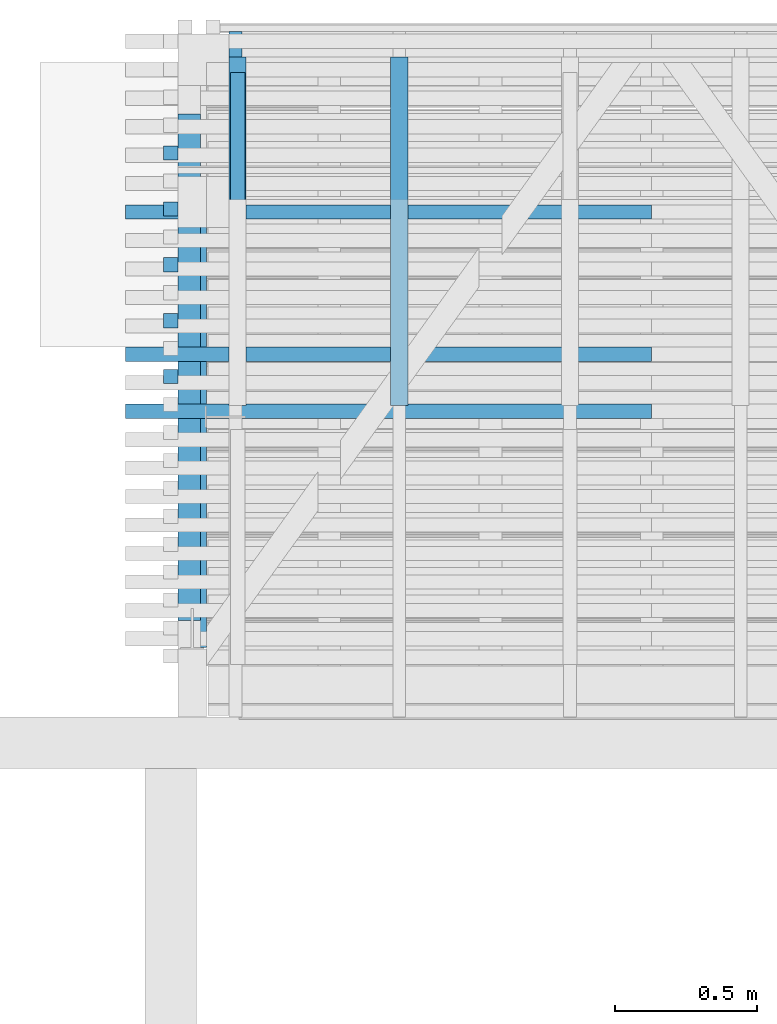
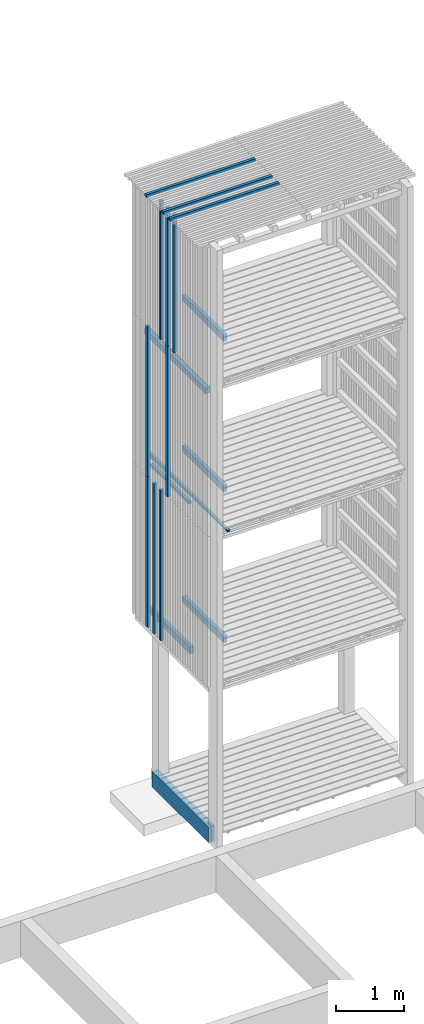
# One storey, part 142 of 182: 19 beams.
"""IFC2X3 building model written with IfcOpenShell, lengths in metres."""

from ifc_helpers import new_model, si_unit, frame, origin, place, context, project, spatial, faceted_brep, element, save


model = new_model("IFC2X3")

# Units and contexts
model_context = context("Model", 3, precision=1e-06, world=origin())
ifc_project = project(units=[si_unit("LENGTHUNIT", "METRE"), si_unit("PLANEANGLEUNIT", "RADIAN")], contexts=[model_context])

# Site, building, storey
site = spatial("IfcSite", under=ifc_project, CompositionType="ELEMENT")
building = spatial("IfcBuilding", under=site, CompositionType="ELEMENT")
storey = spatial("IfcBuildingStorey", under=building, Name="vs", CompositionType="ELEMENT", Elevation=-0.85)

# Beams
placement = place(None, origin())
beam_1_placement = place(placement, frame((33.2574999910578, 10.470077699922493, 5.384400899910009), z_axis=(0.0, 0.0, 1.0), x_axis=(0.0, 1.0, 0.0)))
element("IfcBeam", 1, at=beam_1_placement, inside=storey, Name="Calage", context=model_context, shape_type="Brep", body=[
    faceted_brep([(2.41000000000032, -0.022499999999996, -0.035599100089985), (0.0, -0.022499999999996, 0.012600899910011), (0.0, 0.022500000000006, 0.012600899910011), (2.41000000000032, 0.022500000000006, -0.035599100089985), (0.0, 0.022500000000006, 0.035599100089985), (0.0, 0.022500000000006, 0.012600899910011), (0.0, -0.022499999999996, 0.012600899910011), (0.0, -0.022499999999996, 0.035599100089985), (2.41000000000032, 0.022500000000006, -0.035599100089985), (0.0, 0.022500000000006, 0.012600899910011), (0.0, 0.022500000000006, 0.035599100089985), (2.41000000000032, 0.022500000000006, 0.035599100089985), (2.41000000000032, -0.022499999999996, 0.035599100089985), (0.0, -0.022499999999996, 0.035599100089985), (0.0, -0.022499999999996, 0.012600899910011), (2.41000000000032, -0.022499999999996, -0.035599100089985), (2.41000000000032, 0.022500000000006, 0.035599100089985), (0.0, 0.022500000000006, 0.035599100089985), (0.0, -0.022499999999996, 0.035599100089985), (2.41000000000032, -0.022499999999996, 0.035599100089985), (2.41000000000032, 0.022500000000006, -0.035599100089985), (2.41000000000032, 0.022500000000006, 0.035599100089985), (2.41000000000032, -0.022499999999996, 0.035599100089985), (2.41000000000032, -0.022499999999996, -0.035599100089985)], [[[0, 1, 2, 3]], [[4, 5, 6, 7]], [[8, 9, 10, 11]], [[12, 13, 14, 15]], [[16, 17, 18, 19]], [[20, 21, 22, 23]]]),
])
beam_2_placement = place(placement, frame((33.83299999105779, 11.565077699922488, 8.00424999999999), z_axis=(0.0, 0.0, 1.0), x_axis=(0.0, 1.0, 0.0)))
element("IfcBeam", 2, at=beam_2_placement, inside=storey, Name="Solive", context=model_context, shape_type="Brep", body=[
    faceted_brep([(0.0, -0.030000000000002, -0.061849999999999), (1.225000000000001, -0.030000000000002, -0.061849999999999), (1.225000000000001, -0.030000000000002, 0.037349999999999), (0.0, -0.030000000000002, 0.061849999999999), (0.0, 0.030000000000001, 0.061850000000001), (0.0, 0.030000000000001, -0.061849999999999), (0.0, -0.030000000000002, -0.061849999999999), (0.0, -0.030000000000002, 0.061849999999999), (0.0, -0.030000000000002, -0.061849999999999), (0.0, 0.030000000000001, -0.061849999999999), (1.225000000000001, 0.030000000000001, -0.061849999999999), (1.225000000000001, -0.030000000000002, -0.061849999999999), (1.225000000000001, 0.030000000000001, -0.061849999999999), (0.0, 0.030000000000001, -0.061849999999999), (0.0, 0.030000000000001, 0.061850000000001), (1.225000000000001, 0.030000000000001, 0.037349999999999), (1.225000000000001, -0.030000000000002, 0.037349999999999), (1.225000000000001, -0.030000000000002, -0.061849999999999), (1.225000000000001, 0.030000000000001, -0.061849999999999), (1.225000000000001, 0.030000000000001, 0.037349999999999), (0.0, -0.030000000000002, 0.061849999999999), (1.225000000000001, -0.030000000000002, 0.037349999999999), (1.225000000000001, 0.030000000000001, 0.037349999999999), (0.0, 0.030000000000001, 0.061850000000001)], [[[0, 1, 2, 3]], [[4, 5, 6, 7]], [[8, 9, 10, 11]], [[12, 13, 14, 15]], [[16, 17, 18, 19]], [[20, 21, 22, 23]]]),
])
beam_3_placement = place(placement, frame((33.09499999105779, 10.8100776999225, 7.774999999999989), z_axis=(0.0, 0.0, 1.0), x_axis=(0.0, 1.0, 0.0)))
element("IfcBeam", 3, at=beam_3_placement, inside=storey, Name="Support bardage", context=model_context, shape_type="Brep", body=[
    faceted_brep([(1.779999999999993, 0.039999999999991, -0.050000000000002), (1.779999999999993, 0.039999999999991, 0.050000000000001), (1.779999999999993, -0.040000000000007, 0.050000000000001), (1.779999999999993, -0.040000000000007, -0.050000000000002), (1.779999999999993, -0.040000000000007, 0.050000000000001), (1.779999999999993, 0.039999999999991, 0.050000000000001), (-4e-15, 0.039999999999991, 0.050000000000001), (-4e-15, -0.040000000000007, 0.050000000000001), (-4e-15, 0.039999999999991, 0.050000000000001), (1.779999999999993, 0.039999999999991, 0.050000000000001), (1.779999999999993, 0.039999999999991, -0.050000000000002), (-4e-15, 0.039999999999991, -0.050000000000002), (1.779999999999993, -0.040000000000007, -0.050000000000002), (1.779999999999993, -0.040000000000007, 0.050000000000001), (-4e-15, -0.040000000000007, 0.050000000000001), (-4e-15, -0.040000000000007, -0.050000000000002), (-4e-15, 0.039999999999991, -0.050000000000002), (1.779999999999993, 0.039999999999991, -0.050000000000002), (1.779999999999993, -0.040000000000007, -0.050000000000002), (-4e-15, -0.040000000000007, -0.050000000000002), (-4e-15, 0.039999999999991, 0.050000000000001), (-4e-15, 0.039999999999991, -0.050000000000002), (-4e-15, -0.040000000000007, -0.050000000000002), (-4e-15, -0.040000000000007, 0.050000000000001)], [[[0, 1, 2, 3]], [[4, 5, 6, 7]], [[8, 9, 10, 11]], [[12, 13, 14, 15]], [[16, 17, 18, 19]], [[20, 21, 22, 23]]]),
])
beam_4_placement = place(placement, frame((33.104999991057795, 10.715077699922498, -0.119999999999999), z_axis=(0.0, 0.0, 1.0), x_axis=(0.0, 1.0, 0.0)))
element("IfcBeam", 4, at=beam_4_placement, inside=storey, Name="Sommier", context=model_context, shape_type="Brep", body=[
    faceted_brep([(0.771999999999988, -0.045000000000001, 0.051399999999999), (0.847999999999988, -0.045000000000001, 0.051399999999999), (0.847999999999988, -0.049999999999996, 0.051399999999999), (0.771999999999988, -0.049999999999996, 0.051399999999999), (0.847999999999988, -0.045000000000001, -0.123600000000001), (0.847999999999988, -0.049999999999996, -0.123600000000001), (0.847999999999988, -0.049999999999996, 0.051399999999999), (0.847999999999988, -0.045000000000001, 0.051399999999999), (0.771999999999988, -0.049999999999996, -0.123600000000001), (0.771999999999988, -0.045000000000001, -0.123600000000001), (0.771999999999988, -0.045000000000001, 0.051399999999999), (0.771999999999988, -0.049999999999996, 0.051399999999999), (0.847999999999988, -0.049999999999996, -0.123600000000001), (0.847999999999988, -0.045000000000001, -0.123600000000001), (0.771999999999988, -0.045000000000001, -0.123600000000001), (0.771999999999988, -0.049999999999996, -0.123600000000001), (1.654999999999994, 0.049999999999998, 0.14), (1.654999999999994, -0.049999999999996, 0.14), (1.654999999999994, -0.049999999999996, -0.14), (1.654999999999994, 0.049999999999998, -0.14), (0.137, -0.00399999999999, 0.14), (0.0, -0.00399999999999, 0.14), (0.0, -0.049999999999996, 0.14), (1.654999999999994, -0.049999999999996, 0.14), (1.654999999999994, 0.049999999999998, 0.14), (0.0, 0.049999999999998, 0.14), (0.0, 0.004000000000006, 0.14), (0.137, 0.004000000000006, 0.14), (0.0, -0.049999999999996, -0.14), (1.654999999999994, -0.049999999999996, -0.14), (1.654999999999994, -0.049999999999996, 0.14), (0.0, -0.049999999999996, 0.14), (0.771999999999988, -0.049999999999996, 0.051399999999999), (0.847999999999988, -0.049999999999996, 0.051399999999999), (0.847999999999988, -0.049999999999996, -0.123600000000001), (0.771999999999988, -0.049999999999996, -0.123600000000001), (0.771999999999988, -0.045000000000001, 0.051399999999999), (0.771999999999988, -0.045000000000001, -0.123600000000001), (0.847999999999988, -0.045000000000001, -0.123600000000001), (0.847999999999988, -0.045000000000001, 0.051399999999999), (0.0, 0.049999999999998, 0.14), (1.654999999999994, 0.049999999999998, 0.14), (1.654999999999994, 0.049999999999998, -0.14), (0.0, 0.049999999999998, -0.14), (0.0, 0.004000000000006, -0.14), (0.0, 0.004000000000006, 0.14), (0.0, 0.049999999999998, 0.14), (0.0, 0.049999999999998, -0.14), (0.0, -0.049999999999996, 0.14), (0.0, -0.00399999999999, 0.14), (0.0, -0.00399999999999, -0.14), (0.0, -0.049999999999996, -0.14), (0.0, 0.004000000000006, -0.14), (0.0, 0.049999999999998, -0.14), (1.654999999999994, 0.049999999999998, -0.14), (1.654999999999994, -0.049999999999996, -0.14), (0.0, -0.049999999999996, -0.14), (0.0, -0.00399999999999, -0.14), (0.137, -0.00399999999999, -0.14), (0.137, 0.004000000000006, -0.14), (0.137, 0.004000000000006, -0.14), (0.137, -0.00399999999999, -0.14), (0.137, -0.00399999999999, 0.14), (0.137, 0.004000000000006, 0.14), (0.0, -0.00399999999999, 0.14), (0.137, -0.00399999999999, 0.14), (0.137, -0.00399999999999, -0.14), (0.0, -0.00399999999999, -0.14), (0.137, 0.004000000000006, 0.14), (0.0, 0.004000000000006, 0.14), (0.0, 0.004000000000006, -0.14), (0.137, 0.004000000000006, -0.14)], [[[0, 1, 2, 3]], [[4, 5, 6, 7]], [[8, 9, 10, 11]], [[12, 13, 14, 15]], [[16, 17, 18, 19]], [[20, 21, 22, 23, 24, 25, 26, 27]], [[28, 29, 30, 31], [32, 33, 34, 35]], [[36, 37, 38, 39]], [[40, 41, 42, 43]], [[44, 45, 46, 47]], [[48, 49, 50, 51]], [[52, 53, 54, 55, 56, 57, 58, 59]], [[60, 61, 62, 63]], [[64, 65, 66, 67]], [[68, 69, 70, 71]]]),
])
beam_5_placement = place(placement, frame((34.719999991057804, 12.245077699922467, 10.47999999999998), z_axis=(0.0, 0.0, 1.0), x_axis=(-1.0, 0.0, 0.0)))
element("IfcBeam", 5, at=beam_5_placement, inside=storey, Name="Bardage", context=model_context, shape_type="Brep", body=[
    faceted_brep([(1.850000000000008, -0.024999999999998, -0.024999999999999), (1.850000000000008, -0.024999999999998, 0.025000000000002), (-1e-15, -0.024999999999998, 0.025000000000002), (-1e-15, -0.024999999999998, -0.024999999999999), (1.850000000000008, -0.024999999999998, 0.025000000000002), (1.850000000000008, -0.024999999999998, -0.024999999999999), (1.850000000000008, 0.024999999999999, -0.024999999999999), (1.850000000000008, 0.024999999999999, 0.025000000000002), (1.850000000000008, 0.024999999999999, -0.024999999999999), (1.850000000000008, -0.024999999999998, -0.024999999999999), (-1e-15, -0.024999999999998, -0.024999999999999), (-1e-15, 0.024999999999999, -0.024999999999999), (1.850000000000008, 0.024999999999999, 0.025000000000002), (1.850000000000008, 0.024999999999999, -0.024999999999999), (-1e-15, 0.024999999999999, -0.024999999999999), (-1e-15, 0.024999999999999, 0.025000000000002), (-1e-15, -0.024999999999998, 0.025000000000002), (1.850000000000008, -0.024999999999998, 0.025000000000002), (1.850000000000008, 0.024999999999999, 0.025000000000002), (-1e-15, 0.024999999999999, 0.025000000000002), (-1e-15, -0.024999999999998, -0.024999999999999), (-1e-15, -0.024999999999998, 0.025000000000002), (-1e-15, 0.024999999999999, 0.025000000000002), (-1e-15, 0.024999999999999, -0.024999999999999)], [[[0, 1, 2, 3]], [[4, 5, 6, 7]], [[8, 9, 10, 11]], [[12, 13, 14, 15]], [[16, 17, 18, 19]], [[20, 21, 22, 23]]]),
])
beam_6_placement = place(placement, frame((33.83299999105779, 11.565077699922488, 5.304249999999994), z_axis=(0.0, 0.0, 1.0), x_axis=(0.0, 1.0, 0.0)))
element("IfcBeam", 6, at=beam_6_placement, inside=storey, Name="Solive", context=model_context, shape_type="Brep", body=[
    faceted_brep([(0.0, -0.030000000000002, -0.061849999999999), (1.225000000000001, -0.030000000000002, -0.061849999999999), (1.225000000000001, -0.030000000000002, 0.03735), (0.0, -0.030000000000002, 0.06185), (0.0, 0.030000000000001, 0.061850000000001), (0.0, 0.030000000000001, -0.061849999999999), (0.0, -0.030000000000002, -0.061849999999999), (0.0, -0.030000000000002, 0.06185), (0.0, -0.030000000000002, -0.061849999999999), (0.0, 0.030000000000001, -0.061849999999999), (1.225000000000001, 0.030000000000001, -0.061849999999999), (1.225000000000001, -0.030000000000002, -0.061849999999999), (1.225000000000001, 0.030000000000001, -0.061849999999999), (0.0, 0.030000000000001, -0.061849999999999), (0.0, 0.030000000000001, 0.061850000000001), (1.225000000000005, 0.030000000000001, 0.03735), (1.225000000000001, -0.030000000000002, 0.03735), (1.225000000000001, -0.030000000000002, -0.061849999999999), (1.225000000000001, 0.030000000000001, -0.061849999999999), (1.225000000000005, 0.030000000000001, 0.03735), (0.0, -0.030000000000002, 0.06185), (1.225000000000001, -0.030000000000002, 0.03735), (1.225000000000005, 0.030000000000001, 0.03735), (0.0, 0.030000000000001, 0.061850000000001)], [[[0, 1, 2, 3]], [[4, 5, 6, 7]], [[8, 9, 10, 11]], [[12, 13, 14, 15]], [[16, 17, 18, 19]], [[20, 21, 22, 23]]]),
])
beam_7_placement = place(placement, frame((33.83299999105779, 11.565077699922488, 2.604249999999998), z_axis=(0.0, 0.0, 1.0), x_axis=(0.0, 1.0, 0.0)))
element("IfcBeam", 7, at=beam_7_placement, inside=storey, Name="Solive", context=model_context, shape_type="Brep", body=[
    faceted_brep([(0.0, -0.030000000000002, -0.06185), (1.225000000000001, -0.030000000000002, -0.06185), (1.225000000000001, -0.030000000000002, 0.037349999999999), (0.0, -0.030000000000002, 0.06185), (0.0, 0.030000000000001, 0.06185), (0.0, 0.030000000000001, -0.06185), (0.0, -0.030000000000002, -0.06185), (0.0, -0.030000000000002, 0.06185), (0.0, -0.030000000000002, -0.06185), (0.0, 0.030000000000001, -0.06185), (1.225000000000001, 0.030000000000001, -0.06185), (1.225000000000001, -0.030000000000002, -0.06185), (1.225000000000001, 0.030000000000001, -0.06185), (0.0, 0.030000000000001, -0.06185), (0.0, 0.030000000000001, 0.06185), (1.225000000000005, 0.030000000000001, 0.037349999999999), (1.225000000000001, -0.030000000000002, 0.037349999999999), (1.225000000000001, -0.030000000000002, -0.06185), (1.225000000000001, 0.030000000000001, -0.06185), (1.225000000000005, 0.030000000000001, 0.037349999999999), (0.0, -0.030000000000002, 0.06185), (1.225000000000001, -0.030000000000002, 0.037349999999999), (1.225000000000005, 0.030000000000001, 0.037349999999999), (0.0, 0.030000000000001, 0.06185)], [[[0, 1, 2, 3]], [[4, 5, 6, 7]], [[8, 9, 10, 11]], [[12, 13, 14, 15]], [[16, 17, 18, 19]], [[20, 21, 22, 23]]]),
])
beam_8_placement = place(placement, frame((33.26499999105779, 12.735077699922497, 5.217399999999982), z_axis=(0.0, 0.0, 1.0), x_axis=(0.0, -1.0, 0.0)))
element("IfcBeam", 8, at=beam_8_placement, inside=storey, Name="Calage", context=model_context, shape_type="Brep", body=[
    faceted_brep([(0.0, 0.025000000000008, -0.024999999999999), (0.0, -0.024999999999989, -0.024999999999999), (0.0, -0.024999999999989, 0.024999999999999), (0.0, 0.025000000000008, 0.024999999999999), (1.115000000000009, -0.024999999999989, 0.024999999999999), (1.115000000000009, -0.024999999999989, -0.024999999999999), (1.115000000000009, 0.025000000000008, -0.024999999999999), (1.115000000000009, 0.025000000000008, 0.024999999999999), (0.0, -0.024999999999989, 0.024999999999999), (0.0, -0.024999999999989, -0.024999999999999), (1.115000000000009, -0.024999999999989, -0.024999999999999), (1.115000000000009, -0.024999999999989, 0.024999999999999), (1.115000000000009, -0.024999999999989, -0.024999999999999), (0.0, -0.024999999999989, -0.024999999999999), (0.0, 0.025000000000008, -0.024999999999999), (1.115000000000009, 0.025000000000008, -0.024999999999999), (1.115000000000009, 0.025000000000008, -0.024999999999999), (0.0, 0.025000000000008, -0.024999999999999), (0.0, 0.025000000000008, 0.024999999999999), (1.115000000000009, 0.025000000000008, 0.024999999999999), (1.115000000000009, 0.025000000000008, 0.024999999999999), (0.0, 0.025000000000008, 0.024999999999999), (0.0, -0.024999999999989, 0.024999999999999), (1.115000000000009, -0.024999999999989, 0.024999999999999)], [[[0, 1, 2, 3]], [[4, 5, 6, 7]], [[8, 9, 10, 11]], [[12, 13, 14, 15]], [[16, 17, 18, 19]], [[20, 21, 22, 23]]]),
])
beam_9_placement = place(placement, frame((33.26499999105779, 11.565077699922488, 2.604249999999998), z_axis=(0.0, 0.0, 1.0), x_axis=(0.0, 1.0, 0.0)))
element("IfcBeam", 9, at=beam_9_placement, inside=storey, Name="Solive", context=model_context, shape_type="Brep", body=[
    faceted_brep([(0.0, -0.030000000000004, -0.06185), (1.225000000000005, -0.030000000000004, -0.06185), (1.225000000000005, -0.030000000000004, 0.037349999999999), (0.0, -0.030000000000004, 0.06185), (0.0, 0.029999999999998, -0.06185), (1.225000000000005, 0.029999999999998, -0.06185), (1.225000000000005, -0.030000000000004, -0.06185), (0.0, -0.030000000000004, -0.06185), (0.0, 0.029999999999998, 0.06185), (0.0, 0.029999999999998, -0.06185), (0.0, -0.030000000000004, -0.06185), (0.0, -0.030000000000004, 0.06185), (1.225000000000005, 0.029999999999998, -0.06185), (0.0, 0.029999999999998, -0.06185), (0.0, 0.029999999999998, 0.06185), (1.225000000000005, 0.029999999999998, 0.037349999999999), (1.225000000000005, -0.030000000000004, 0.037349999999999), (1.225000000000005, -0.030000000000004, -0.06185), (1.225000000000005, 0.029999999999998, -0.06185), (1.225000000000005, 0.029999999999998, 0.037349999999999), (0.0, -0.030000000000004, 0.06185), (1.225000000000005, -0.030000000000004, 0.037349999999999), (1.225000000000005, 0.029999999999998, 0.037349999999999), (0.0, 0.029999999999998, 0.06185)], [[[0, 1, 2, 3]], [[4, 5, 6, 7]], [[8, 9, 10, 11]], [[12, 13, 14, 15]], [[16, 17, 18, 19]], [[20, 21, 22, 23]]]),
])
beam_10_placement = place(placement, frame((34.719999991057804, 11.745077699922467, 10.47999999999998), z_axis=(0.0, 0.0, 1.0), x_axis=(-1.0, 0.0, 0.0)))
element("IfcBeam", 10, at=beam_10_placement, inside=storey, Name="Bardage", context=model_context, shape_type="Brep", body=[
    faceted_brep([(1.850000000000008, -0.024999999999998, -0.024999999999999), (1.850000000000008, -0.024999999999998, 0.025000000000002), (-1e-15, -0.024999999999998, 0.025000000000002), (-1e-15, -0.024999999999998, -0.024999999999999), (1.850000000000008, -0.024999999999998, 0.025000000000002), (1.850000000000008, -0.024999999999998, -0.024999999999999), (1.850000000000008, 0.024999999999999, -0.024999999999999), (1.850000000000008, 0.024999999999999, 0.025000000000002), (1.850000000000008, 0.024999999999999, -0.024999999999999), (1.850000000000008, -0.024999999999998, -0.024999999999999), (-1e-15, -0.024999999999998, -0.024999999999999), (-1e-15, 0.024999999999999, -0.024999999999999), (1.850000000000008, 0.024999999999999, 0.025000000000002), (1.850000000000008, 0.024999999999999, -0.024999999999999), (-1e-15, 0.024999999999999, -0.024999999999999), (-1e-15, 0.024999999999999, 0.025000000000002), (-1e-15, -0.024999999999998, 0.025000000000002), (1.850000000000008, -0.024999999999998, 0.025000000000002), (1.850000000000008, 0.024999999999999, 0.025000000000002), (-1e-15, 0.024999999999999, 0.025000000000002), (-1e-15, -0.024999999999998, -0.024999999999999), (-1e-15, -0.024999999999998, 0.025000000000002), (-1e-15, 0.024999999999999, 0.025000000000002), (-1e-15, 0.024999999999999, -0.024999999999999)], [[[0, 1, 2, 3]], [[4, 5, 6, 7]], [[8, 9, 10, 11]], [[12, 13, 14, 15]], [[16, 17, 18, 19]], [[20, 21, 22, 23]]]),
])
beam_11_placement = place(placement, frame((34.719999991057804, 11.545077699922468, 10.47999999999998), z_axis=(0.0, 0.0, 1.0), x_axis=(-1.0, -2e-15, 0.0)))
element("IfcBeam", 11, at=beam_11_placement, inside=storey, Name="Bardage", context=model_context, shape_type="Brep", body=[
    faceted_brep([(1.850000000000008, -0.025000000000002, -0.024999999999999), (1.850000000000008, -0.025000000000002, 0.025000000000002), (-1e-15, -0.024999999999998, 0.025000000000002), (-1e-15, -0.024999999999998, -0.024999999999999), (1.850000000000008, -0.025000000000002, 0.025000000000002), (1.850000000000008, -0.025000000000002, -0.024999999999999), (1.850000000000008, 0.024999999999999, -0.024999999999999), (1.850000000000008, 0.024999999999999, 0.025000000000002), (1.850000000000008, 0.024999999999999, -0.024999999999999), (1.850000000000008, -0.025000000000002, -0.024999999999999), (-1e-15, -0.024999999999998, -0.024999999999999), (0.0, 0.025000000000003, -0.024999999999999), (1.850000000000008, 0.024999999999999, 0.025000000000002), (1.850000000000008, 0.024999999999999, -0.024999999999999), (0.0, 0.025000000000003, -0.024999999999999), (0.0, 0.025000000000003, 0.025000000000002), (-1e-15, -0.024999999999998, 0.025000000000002), (1.850000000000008, -0.025000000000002, 0.025000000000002), (1.850000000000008, 0.024999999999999, 0.025000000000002), (0.0, 0.025000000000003, 0.025000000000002), (-1e-15, -0.024999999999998, -0.024999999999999), (-1e-15, -0.024999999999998, 0.025000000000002), (0.0, 0.025000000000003, 0.025000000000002), (0.0, 0.025000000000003, -0.024999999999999)], [[[0, 1, 2, 3]], [[4, 5, 6, 7]], [[8, 9, 10, 11]], [[12, 13, 14, 15]], [[16, 17, 18, 19]], [[20, 21, 22, 23]]]),
])
beam_12_placement = place(placement, frame((33.029999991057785, 12.059623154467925, 7.974999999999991), z_axis=(1.0, 0.0, 0.0), x_axis=(0.0, 0.0, 1.0)))
element("IfcBeam", 12, at=beam_12_placement, inside=storey, Name="Bardage", context=model_context, shape_type="Brep", body=[
    faceted_brep([(0.0, -0.025000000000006, 0.025000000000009), (0.0, 0.024999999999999, 0.025000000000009), (0.0, 0.024999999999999, -0.025000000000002), (0.0, -0.025000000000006, -0.025000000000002), (2.479999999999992, 0.024999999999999, -0.025000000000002), (2.479999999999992, 0.024999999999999, 0.025000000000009), (2.479999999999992, -0.025000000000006, 0.025000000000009), (2.479999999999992, -0.025000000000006, -0.025000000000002), (0.0, 0.024999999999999, 0.025000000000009), (0.0, -0.025000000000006, 0.025000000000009), (2.479999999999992, -0.025000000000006, 0.025000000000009), (2.479999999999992, 0.024999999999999, 0.025000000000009), (0.0, 0.024999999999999, -0.025000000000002), (0.0, 0.024999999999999, 0.025000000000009), (2.479999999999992, 0.024999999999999, 0.025000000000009), (2.479999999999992, 0.024999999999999, -0.025000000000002), (0.0, -0.025000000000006, -0.025000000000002), (0.0, 0.024999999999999, -0.025000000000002), (2.479999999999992, 0.024999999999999, -0.025000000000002), (2.479999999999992, -0.025000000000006, -0.025000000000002), (2.479999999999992, -0.025000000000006, 0.025000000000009), (0.0, -0.025000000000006, 0.025000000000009), (0.0, -0.025000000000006, -0.025000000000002), (2.479999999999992, -0.025000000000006, -0.025000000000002)], [[[0, 1, 2, 3]], [[4, 5, 6, 7]], [[8, 9, 10, 11]], [[12, 13, 14, 15]], [[16, 17, 18, 19]], [[20, 21, 22, 23]]]),
])
beam_13_placement = place(placement, frame((33.029999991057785, 11.863259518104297, 5.274999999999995), z_axis=(1.0, 0.0, 0.0), x_axis=(0.0, 0.0, 1.0)))
element("IfcBeam", 13, at=beam_13_placement, inside=storey, Name="Bardage", context=model_context, shape_type="Brep", body=[
    faceted_brep([(2.699999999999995, 0.025000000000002, 0.025000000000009), (2.699999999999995, -0.024999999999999, 0.025000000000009), (2.699999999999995, -0.024999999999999, -0.025000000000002), (2.699999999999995, 0.025000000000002, -0.025000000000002), (1e-15, 0.025000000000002, 0.025000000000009), (2.699999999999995, 0.025000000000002, 0.025000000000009), (2.699999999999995, 0.025000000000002, -0.025000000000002), (1e-15, 0.025000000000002, -0.025000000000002), (1e-15, -0.024999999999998, 0.025000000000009), (1e-15, 0.025000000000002, 0.025000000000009), (1e-15, 0.025000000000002, -0.025000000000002), (1e-15, -0.024999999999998, -0.025000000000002), (1e-15, 0.025000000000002, 0.025000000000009), (1e-15, -0.024999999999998, 0.025000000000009), (2.699999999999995, -0.024999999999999, 0.025000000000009), (2.699999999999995, 0.025000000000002, 0.025000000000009), (1e-15, -0.024999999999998, 0.025000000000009), (1e-15, -0.024999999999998, -0.025000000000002), (2.699999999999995, -0.024999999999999, -0.025000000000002), (2.699999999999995, -0.024999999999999, 0.025000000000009), (1e-15, -0.024999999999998, -0.025000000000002), (1e-15, 0.025000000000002, -0.025000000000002), (2.699999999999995, 0.025000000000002, -0.025000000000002), (2.699999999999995, -0.024999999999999, -0.025000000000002)], [[[0, 1, 2, 3]], [[4, 5, 6, 7]], [[8, 9, 10, 11]], [[12, 13, 14, 15]], [[16, 17, 18, 19]], [[20, 21, 22, 23]]]),
])
beam_14_placement = place(placement, frame((33.029999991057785, 12.059623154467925, 2.575000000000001), z_axis=(1.0, 0.0, 0.0), x_axis=(0.0, 0.0, 1.0)))
element("IfcBeam", 14, at=beam_14_placement, inside=storey, Name="Bardage", context=model_context, shape_type="Brep", body=[
    faceted_brep([(2.699961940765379, -0.025000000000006, 0.025000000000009), (2.699961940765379, -0.025000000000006, -0.025000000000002), (2.699961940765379, 0.024999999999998, -0.025000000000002), (2.699961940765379, 0.024999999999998, 0.025000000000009), (0.0, -0.025000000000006, 0.025000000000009), (2.699961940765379, -0.025000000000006, 0.025000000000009), (2.699961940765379, 0.024999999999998, 0.025000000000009), (0.0, 0.024999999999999, 0.025000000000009), (0.0, -0.025000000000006, 0.025000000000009), (0.0, 0.024999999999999, 0.025000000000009), (0.0, 0.024999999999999, -0.025000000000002), (0.0, -0.025000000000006, -0.025000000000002), (0.0, -0.025000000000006, 0.025000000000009), (0.0, -0.025000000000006, -0.025000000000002), (2.699961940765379, -0.025000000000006, -0.025000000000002), (2.699961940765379, -0.025000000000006, 0.025000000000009), (0.0, -0.025000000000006, -0.025000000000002), (0.0, 0.024999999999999, -0.025000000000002), (2.699961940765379, 0.024999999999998, -0.025000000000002), (2.699961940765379, -0.025000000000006, -0.025000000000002), (0.0, 0.024999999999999, -0.025000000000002), (0.0, 0.024999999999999, 0.025000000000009), (2.699961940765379, 0.024999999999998, 0.025000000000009), (2.699961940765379, 0.024999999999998, -0.025000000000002)], [[[0, 1, 2, 3]], [[4, 5, 6, 7]], [[8, 9, 10, 11]], [[12, 13, 14, 15]], [[16, 17, 18, 19]], [[20, 21, 22, 23]]]),
])
beam_15_placement = place(placement, frame((33.029999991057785, 11.666895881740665, 7.974999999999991), z_axis=(1.0, 0.0, 0.0), x_axis=(0.0, 0.0, 1.0)))
element("IfcBeam", 15, at=beam_15_placement, inside=storey, Name="Bardage", context=model_context, shape_type="Brep", body=[
    faceted_brep([(0.0, -0.024999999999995, 0.025000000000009), (0.0, 0.025000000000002, 0.025000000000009), (0.0, 0.025000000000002, -0.025000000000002), (0.0, -0.024999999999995, -0.025000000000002), (2.479999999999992, 0.025000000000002, -0.025000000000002), (2.479999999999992, 0.025000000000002, 0.025000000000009), (2.479999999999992, -0.024999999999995, 0.025000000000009), (2.479999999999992, -0.024999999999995, -0.025000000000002), (0.0, 0.025000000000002, 0.025000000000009), (0.0, -0.024999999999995, 0.025000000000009), (2.479999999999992, -0.024999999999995, 0.025000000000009), (2.479999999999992, 0.025000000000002, 0.025000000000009), (0.0, 0.025000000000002, -0.025000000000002), (0.0, 0.025000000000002, 0.025000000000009), (2.479999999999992, 0.025000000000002, 0.025000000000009), (2.479999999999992, 0.025000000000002, -0.025000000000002), (0.0, -0.024999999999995, -0.025000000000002), (0.0, 0.025000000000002, -0.025000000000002), (2.479999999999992, 0.025000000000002, -0.025000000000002), (2.479999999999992, -0.024999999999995, -0.025000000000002), (2.479999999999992, -0.024999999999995, 0.025000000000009), (0.0, -0.024999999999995, 0.025000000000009), (0.0, -0.024999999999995, -0.025000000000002), (2.479999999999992, -0.024999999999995, -0.025000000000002)], [[[0, 1, 2, 3]], [[4, 5, 6, 7]], [[8, 9, 10, 11]], [[12, 13, 14, 15]], [[16, 17, 18, 19]], [[20, 21, 22, 23]]]),
])
beam_16_placement = place(placement, frame((33.029999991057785, 12.255986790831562, 2.575000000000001), z_axis=(1.0, 0.0, 0.0), x_axis=(0.0, 0.0, 1.0)))
element("IfcBeam", 16, at=beam_16_placement, inside=storey, Name="Bardage", context=model_context, shape_type="Brep", body=[
    faceted_brep([(2.699961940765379, -0.025000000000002, 0.025000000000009), (2.699961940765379, -0.025000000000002, -0.025000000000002), (2.699961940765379, 0.024999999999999, -0.025000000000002), (2.699961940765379, 0.024999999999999, 0.025000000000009), (0.0, -0.025000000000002, 0.025000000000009), (2.699961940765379, -0.025000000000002, 0.025000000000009), (2.699961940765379, 0.024999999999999, 0.025000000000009), (0.0, 0.024999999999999, 0.025000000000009), (0.0, -0.025000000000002, 0.025000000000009), (0.0, 0.024999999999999, 0.025000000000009), (0.0, 0.024999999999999, -0.025000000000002), (0.0, -0.025000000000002, -0.025000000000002), (0.0, -0.025000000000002, 0.025000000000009), (0.0, -0.025000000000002, -0.025000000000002), (2.699961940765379, -0.025000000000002, -0.025000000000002), (2.699961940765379, -0.025000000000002, 0.025000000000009), (0.0, -0.025000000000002, -0.025000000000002), (0.0, 0.024999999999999, -0.025000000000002), (2.699961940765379, 0.024999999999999, -0.025000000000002), (2.699961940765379, -0.025000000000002, -0.025000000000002), (0.0, 0.024999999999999, -0.025000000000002), (0.0, 0.024999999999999, 0.025000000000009), (2.699961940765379, 0.024999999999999, 0.025000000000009), (2.699961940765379, 0.024999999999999, -0.025000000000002)], [[[0, 1, 2, 3]], [[4, 5, 6, 7]], [[8, 9, 10, 11]], [[12, 13, 14, 15]], [[16, 17, 18, 19]], [[20, 21, 22, 23]]]),
])
beam_17_placement = place(placement, frame((33.029999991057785, 12.452350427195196, 5.274999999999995), z_axis=(1.0, 0.0, 0.0), x_axis=(0.0, 0.0, 1.0)))
element("IfcBeam", 17, at=beam_17_placement, inside=storey, Name="Bardage", context=model_context, shape_type="Brep", body=[
    faceted_brep([(2.699999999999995, 0.024999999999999, 0.025000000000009), (2.699999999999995, -0.024999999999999, 0.025000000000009), (2.699999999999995, -0.024999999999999, -0.025000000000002), (2.699999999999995, 0.024999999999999, -0.025000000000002), (1e-15, 0.024999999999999, 0.025000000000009), (2.699999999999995, 0.024999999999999, 0.025000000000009), (2.699999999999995, 0.024999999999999, -0.025000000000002), (1e-15, 0.024999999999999, -0.025000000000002), (1e-15, -0.024999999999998, 0.025000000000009), (1e-15, 0.024999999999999, 0.025000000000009), (1e-15, 0.024999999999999, -0.025000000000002), (1e-15, -0.024999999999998, -0.025000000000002), (1e-15, 0.024999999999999, 0.025000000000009), (1e-15, -0.024999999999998, 0.025000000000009), (2.699999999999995, -0.024999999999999, 0.025000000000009), (2.699999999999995, 0.024999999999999, 0.025000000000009), (1e-15, -0.024999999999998, 0.025000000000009), (1e-15, -0.024999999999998, -0.025000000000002), (2.699999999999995, -0.024999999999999, -0.025000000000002), (2.699999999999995, -0.024999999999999, 0.025000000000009), (1e-15, -0.024999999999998, -0.025000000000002), (1e-15, 0.024999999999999, -0.025000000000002), (2.699999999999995, 0.024999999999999, -0.025000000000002), (2.699999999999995, -0.024999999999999, -0.025000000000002)], [[[0, 1, 2, 3]], [[4, 5, 6, 7]], [[8, 9, 10, 11]], [[12, 13, 14, 15]], [[16, 17, 18, 19]], [[20, 21, 22, 23]]]),
])
beam_18_placement = place(placement, frame((33.029999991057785, 12.452350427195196, 2.575000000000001), z_axis=(1.0, 0.0, 0.0), x_axis=(0.0, 0.0, 1.0)))
element("IfcBeam", 18, at=beam_18_placement, inside=storey, Name="Bardage", context=model_context, shape_type="Brep", body=[
    faceted_brep([(2.699961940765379, -0.024999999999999, 0.025000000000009), (2.699961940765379, -0.024999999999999, -0.025000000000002), (2.699961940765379, 0.024999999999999, -0.025000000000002), (2.699961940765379, 0.024999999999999, 0.025000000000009), (0.0, -0.024999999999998, 0.025000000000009), (2.699961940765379, -0.024999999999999, 0.025000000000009), (2.699961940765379, 0.024999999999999, 0.025000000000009), (0.0, 0.024999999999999, 0.025000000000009), (0.0, -0.024999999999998, 0.025000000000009), (0.0, 0.024999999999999, 0.025000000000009), (0.0, 0.024999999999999, -0.025000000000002), (0.0, -0.024999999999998, -0.025000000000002), (0.0, -0.024999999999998, 0.025000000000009), (0.0, -0.024999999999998, -0.025000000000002), (2.699961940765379, -0.024999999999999, -0.025000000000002), (2.699961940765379, -0.024999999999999, 0.025000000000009), (0.0, -0.024999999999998, -0.025000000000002), (0.0, 0.024999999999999, -0.025000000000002), (2.699961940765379, 0.024999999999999, -0.025000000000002), (2.699961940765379, -0.024999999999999, -0.025000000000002), (0.0, 0.024999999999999, -0.025000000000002), (0.0, 0.024999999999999, 0.025000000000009), (2.699961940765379, 0.024999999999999, 0.025000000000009), (2.699961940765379, 0.024999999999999, -0.025000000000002)], [[[0, 1, 2, 3]], [[4, 5, 6, 7]], [[8, 9, 10, 11]], [[12, 13, 14, 15]], [[16, 17, 18, 19]], [[20, 21, 22, 23]]]),
])
beam_19_placement = place(placement, frame((33.029999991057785, 11.863259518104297, 7.974999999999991), z_axis=(1.0, 0.0, 0.0), x_axis=(0.0, 0.0, 1.0)))
element("IfcBeam", 19, at=beam_19_placement, inside=storey, Name="Bardage", context=model_context, shape_type="Brep", body=[
    faceted_brep([(0.0, -0.024999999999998, 0.025000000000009), (0.0, 0.025000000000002, 0.025000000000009), (0.0, 0.025000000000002, -0.025000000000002), (0.0, -0.024999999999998, -0.025000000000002), (2.479999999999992, 0.025000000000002, -0.025000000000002), (2.479999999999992, 0.025000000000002, 0.025000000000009), (2.479999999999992, -0.024999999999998, 0.025000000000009), (2.479999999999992, -0.024999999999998, -0.025000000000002), (0.0, 0.025000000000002, 0.025000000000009), (0.0, -0.024999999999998, 0.025000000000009), (2.479999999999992, -0.024999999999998, 0.025000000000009), (2.479999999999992, 0.025000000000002, 0.025000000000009), (0.0, 0.025000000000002, -0.025000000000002), (0.0, 0.025000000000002, 0.025000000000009), (2.479999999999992, 0.025000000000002, 0.025000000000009), (2.479999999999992, 0.025000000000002, -0.025000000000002), (0.0, -0.024999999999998, -0.025000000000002), (0.0, 0.025000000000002, -0.025000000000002), (2.479999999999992, 0.025000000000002, -0.025000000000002), (2.479999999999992, -0.024999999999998, -0.025000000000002), (2.479999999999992, -0.024999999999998, 0.025000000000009), (0.0, -0.024999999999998, 0.025000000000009), (0.0, -0.024999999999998, -0.025000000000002), (2.479999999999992, -0.024999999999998, -0.025000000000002)], [[[0, 1, 2, 3]], [[4, 5, 6, 7]], [[8, 9, 10, 11]], [[12, 13, 14, 15]], [[16, 17, 18, 19]], [[20, 21, 22, 23]]]),
])

save(model, "model.ifc")
